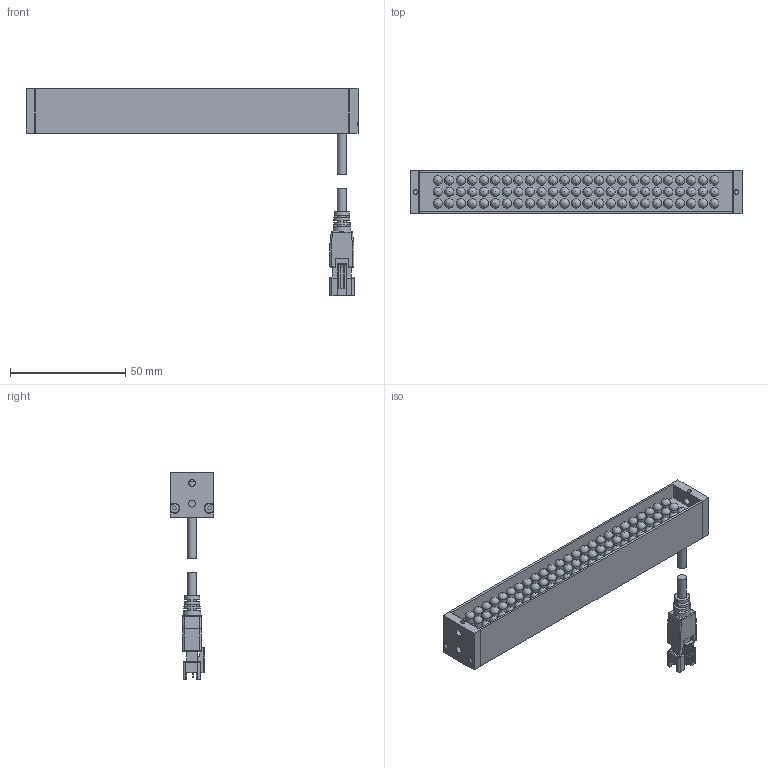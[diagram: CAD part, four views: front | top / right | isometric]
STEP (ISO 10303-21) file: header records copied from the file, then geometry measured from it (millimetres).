
FILE_DESCRIPTION(('STEP AP214'),'1');
FILE_NAME('LED-BL144.stp','2026-04-10T09:20:06',(' '),(' '),'Spatial InterOp 3D',' ',' ');
FILE_SCHEMA(('AUTOMOTIVE_DESIGN { 1 0 10303 214 1 1 1 1 }'));
Length unit declared in the file: metre
Products named in the file (3): LED-BL144; Component1; Component2
Assembly tree (2 placements, depth 2):
  LED-BL144
    Component1
    Component2
Bounding box: 144 x 19 x 89.8 mm (x, y, z)
Volume: 38152.1 mm3; surface area: 24192.1 mm2
Topology: 2 solids, 2 shells, 452 faces, 1264 edges, 831 vertices
Faces by surface type: plane 213, cylinder 129, sphere 79, cone 23, bspline 4, torus 4
Full cylindrical faces by diameter (mm): 2 x2, 3 x6, 3.9 x2, 4 x75
Entity records: 19075 total; most frequent: CARTESIAN_POINT 3580, DIRECTION 1975, ORIENTED_EDGE 1844, EDGE_CURVE 922, STYLED_ITEM 858, PRESENTATION_STYLE_ASSIGNMENT 858, COLOUR_RGB 858, AXIS2_PLACEMENT_3D 718
